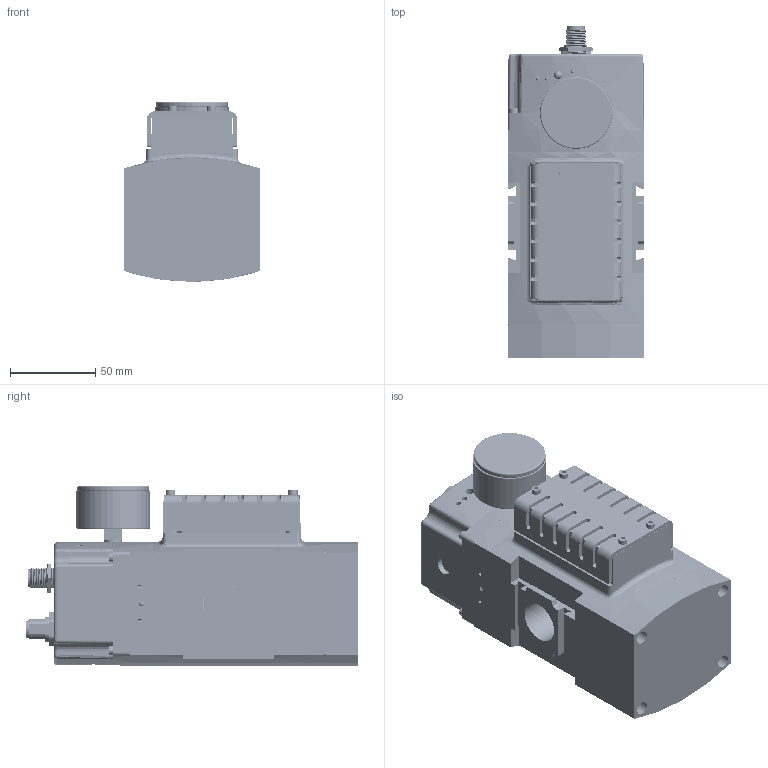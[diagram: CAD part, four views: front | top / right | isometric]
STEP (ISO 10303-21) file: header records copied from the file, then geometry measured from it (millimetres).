
FILE_DESCRIPTION(/* description */ (''),/* implementation_level */ '2;1');
FILE_NAME(/* name */ 'C:\Users\TT09498\Desktop\CAD Temp\P33DB.stp',/* time_stamp */ '2018-02-22T13:30:49-05:00',/* author */ ('tt09498'),/* organization */ (''),/* preprocessor_version */ 'ST-DEVELOPER v16.1',/* originating_system */ 'Autodesk Inventor 2016',/* authorisation */ '');
FILE_SCHEMA (('AUTOMOTIVE_DESIGN { 1 0 10303 214 3 1 1 }'));
Products named in the file (43): 2040B05; 2384C41; 2407C25; Gauge - 1.5 Face; 1527B79; 171j30; 267J36; 404b99; 319b08; 521a32; 1637b25; 508B99; 272a30; 2043B05; 908J15; 2042C05-B; 1167B11; PTFE_Member; Button Head, Hex, 6-32 UNC x 0.25; 022013037; 09-3441-116-05; 1613PDN001.asm; 1097B89; 1305A30; 125j36; 378J36; 404j36; 495a13; 678b25; 1613PDN002.asm; 131j22; 68.6RE; 155a19; 336B08; Mesh wire; 212j15; 208j15; 495a13_1; 022013047; 2440C75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
Assembly tree (77 placements, depth 5):
  FRL wo SS
    MCF2 WO SS PARKER
      2040B05
      2440C75
        2384C41
        2407C25
        Gauge - 1.5 Face
        1527B79  x2
        171j30  x6
        267J36  x3
        508B99  x2
          404b99
          319b08
          521a32
          1637b25
        272a30  x3
        2043B05
        908J15  x2
        1097B89
          2042C05-B
          1167B11
          PTFE_Member
          Button Head, Hex, 6-32 UNC x 0.25
          022013037  x2
          09-3441-116-05
          1613PDN001.asm
        1305A30
        125j36  x4
        378J36  x4
        404j36  x6
        495a13
        678b25  x2
        1613PDN002.asm
        131j22  x2
        68.6RE  x2
        155a19  x2
        336B08  x2
        Mesh wire
        212j15  x2
        208j15  x2
        495a13_1
        022013047
      125j36  x4
      1166A11
Bounding box: 80.02 x 194.95 x 105.64 mm (x, y, z)
Volume: 764830.2 mm3; surface area: 291328.3 mm2
Topology: 79 solids, 79 shells, 3477 faces, 8913 edges, 5680 vertices
Faces by surface type: plane 1772, cylinder 1138, bspline 244, torus 139, cone 135, sphere 49
Full cylindrical faces by diameter (mm): 0.254 x9, 0.6 x6, 0.65 x2, 0.7 x5, 0.75 x5, 0.8 x2, 0.889 x2, 1 x9, 1.02 x6, 1.2 x5, 1.25 x5, 1.3 x5, 1.5 x2, 1.981 x6, 1.985 x2, 2 x17, 2.5 x23, 2.642 x11, 2.692 x165, 2.7 x1, 2.908 x2, 3 x27, 3.048 x2, 3.175 x2, 3.188 x2, 3.2 x6, 3.3 x16, 3.302 x2, 3.353 x2, 3.378 x8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
Entity records: 140930 total; most frequent: CARTESIAN_POINT 70964, DIRECTION 14003, ORIENTED_EDGE 13134, EDGE_CURVE 6567, AXIS2_PLACEMENT_3D 5231, VERTEX_POINT 4494, EDGE_LOOP 4023, LINE 3541
